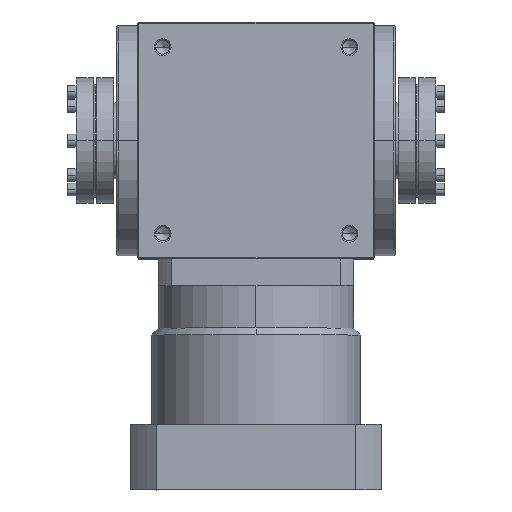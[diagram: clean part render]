
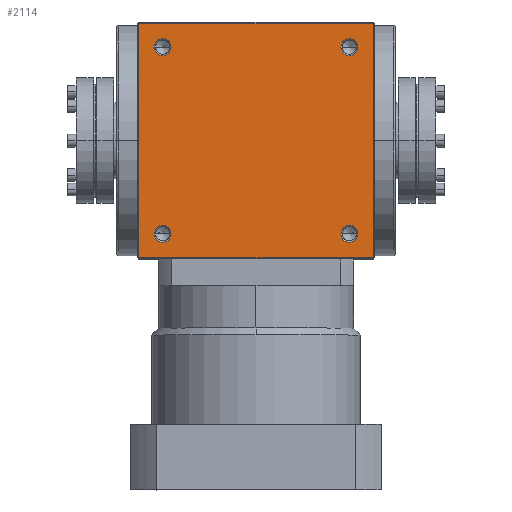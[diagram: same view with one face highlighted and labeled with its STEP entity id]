
A CAD part, top view. The second image highlights one B-rep face of the part: STEP entity #2114.
In plain terms, the highlighted planar face has unit normal (0, 0, 1).
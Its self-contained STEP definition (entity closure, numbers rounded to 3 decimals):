
#688 = EDGE_CURVE ( 'NONE', #14537, #14434, #18743, .T. ) ;
#827 = AXIS2_PLACEMENT_3D ( 'NONE', #9617, #9619, #9641 ) ;
#2114 = ADVANCED_FACE ( 'NONE', ( #10393, #3582, #12990, #18031, #8414 ), #13659, .F. ) ;
#2268 = EDGE_CURVE ( 'NONE', #13686, #20657, #4994, .T. ) ;
#2456 = EDGE_CURVE ( 'NONE', #13686, #5702, #21355, .T. ) ;
#2525 = CARTESIAN_POINT ( 'NONE',  ( 67., -67., 85. ) ) ;
#2556 = DIRECTION ( 'NONE',  ( 0., 0., 1. ) ) ;
#2576 = DIRECTION ( 'NONE',  ( 1., 0., 0. ) ) ;
#2596 = CARTESIAN_POINT ( 'NONE',  ( -67., 67., 85. ) ) ;
#2626 = DIRECTION ( 'NONE',  ( 0., 0., 1. ) ) ;
#2653 = DIRECTION ( 'NONE',  ( 1., 0., 0. ) ) ;
#3012 = VECTOR ( 'NONE', #16038, 1000. ) ;
#3143 = EDGE_CURVE ( 'NONE', #4067, #9983, #7436, .T. ) ;
#3552 = CIRCLE ( 'NONE', #18183, 6.1 ) ;
#3582 = FACE_BOUND ( 'NONE', #6469, .T. ) ;
#3766 = EDGE_CURVE ( 'NONE', #14434, #14537, #8337, .T. ) ;
#3806 = EDGE_CURVE ( 'NONE', #10989, #10783, #20556, .T. ) ;
#3842 = EDGE_CURVE ( 'NONE', #18341, #8516, #6422, .T. ) ;
#4067 = VERTEX_POINT ( 'NONE', #13092 ) ;
#4586 = CARTESIAN_POINT ( 'NONE',  ( -60.9, 67., 85. ) ) ;
#4670 = CARTESIAN_POINT ( 'NONE',  ( -84., 84., 85. ) ) ;
#4994 = LINE ( 'NONE', #16116, #3012 ) ;
#5702 = VERTEX_POINT ( 'NONE', #4670 ) ;
#5989 = VECTOR ( 'NONE', #18811, 1000. ) ;
#6257 = CARTESIAN_POINT ( 'NONE',  ( 0., 84., 85. ) ) ;
#6402 = AXIS2_PLACEMENT_3D ( 'NONE', #10113, #10132, #10137 ) ;
#6422 = CIRCLE ( 'NONE', #12633, 6.1 ) ;
#6469 = EDGE_LOOP ( 'NONE', ( #15688, #21954 ) ) ;
#6579 = DIRECTION ( 'NONE',  ( 1., 0., 0. ) ) ;
#6723 = CARTESIAN_POINT ( 'NONE',  ( -60.9, -67., 85. ) ) ;
#7436 = CIRCLE ( 'NONE', #12059, 6.1 ) ;
#7603 = ORIENTED_EDGE ( 'NONE', *, *, #17471, .F. ) ;
#7892 = CARTESIAN_POINT ( 'NONE',  ( -73.1, -67., 85. ) ) ;
#8337 = CIRCLE ( 'NONE', #827, 6.1 ) ;
#8414 = FACE_OUTER_BOUND ( 'NONE', #17276, .T. ) ;
#8430 = EDGE_CURVE ( 'NONE', #9983, #4067, #11705, .T. ) ;
#8516 = VERTEX_POINT ( 'NONE', #20742 ) ;
#8799 = VERTEX_POINT ( 'NONE', #9643 ) ;
#9033 = LINE ( 'NONE', #6257, #9286 ) ;
#9286 = VECTOR ( 'NONE', #6579, 1000. ) ;
#9475 = CARTESIAN_POINT ( 'NONE',  ( 60.9, -67., 85. ) ) ;
#9617 = CARTESIAN_POINT ( 'NONE',  ( -67., -67., 85. ) ) ;
#9619 = DIRECTION ( 'NONE',  ( 0., 0., 1. ) ) ;
#9641 = DIRECTION ( 'NONE',  ( 1., 0., 0. ) ) ;
#9643 = CARTESIAN_POINT ( 'NONE',  ( 84., 84., 85. ) ) ;
#9983 = VERTEX_POINT ( 'NONE', #9475 ) ;
#10040 = LINE ( 'NONE', #14611, #11583 ) ;
#10113 = CARTESIAN_POINT ( 'NONE',  ( 67., 67., 85. ) ) ;
#10132 = DIRECTION ( 'NONE',  ( 0., 0., 1. ) ) ;
#10137 = DIRECTION ( 'NONE',  ( 1., 0., 0. ) ) ;
#10158 = CARTESIAN_POINT ( 'NONE',  ( 84., -84., 85. ) ) ;
#10379 = ORIENTED_EDGE ( 'NONE', *, *, #3143, .F. ) ;
#10393 = FACE_BOUND ( 'NONE', #15461, .T. ) ;
#10554 = CARTESIAN_POINT ( 'NONE',  ( -67., 67., 85. ) ) ;
#10580 = DIRECTION ( 'NONE',  ( 0., 0., 1. ) ) ;
#10584 = DIRECTION ( 'NONE',  ( 1., 0., 0. ) ) ;
#10783 = VERTEX_POINT ( 'NONE', #18015 ) ;
#10989 = VERTEX_POINT ( 'NONE', #20698 ) ;
#11376 = ORIENTED_EDGE ( 'NONE', *, *, #3766, .F. ) ;
#11583 = VECTOR ( 'NONE', #14490, 1000. ) ;
#11705 = CIRCLE ( 'NONE', #14713, 6.1 ) ;
#11809 = DIRECTION ( 'NONE',  ( 1., 0., 0. ) ) ;
#11821 = ORIENTED_EDGE ( 'NONE', *, *, #8430, .F. ) ;
#11857 = EDGE_CURVE ( 'NONE', #8516, #18341, #13744, .T. ) ;
#11858 = ORIENTED_EDGE ( 'NONE', *, *, #2268, .T. ) ;
#12059 = AXIS2_PLACEMENT_3D ( 'NONE', #2525, #2556, #2576 ) ;
#12203 = CARTESIAN_POINT ( 'NONE',  ( -67., -67., 85. ) ) ;
#12633 = AXIS2_PLACEMENT_3D ( 'NONE', #10554, #10580, #10584 ) ;
#12990 = FACE_BOUND ( 'NONE', #21678, .T. ) ;
#13092 = CARTESIAN_POINT ( 'NONE',  ( 73.1, -67., 85. ) ) ;
#13610 = DIRECTION ( 'NONE',  ( 0., 0., -1. ) ) ;
#13659 = PLANE ( 'NONE',  #16562 ) ;
#13686 = VERTEX_POINT ( 'NONE', #16616 ) ;
#13710 = CARTESIAN_POINT ( 'NONE',  ( 84., -84., 85. ) ) ;
#13731 = DIRECTION ( 'NONE',  ( -1., 0., 0. ) ) ;
#13744 = CIRCLE ( 'NONE', #21086, 6.1 ) ;
#13808 = DIRECTION ( 'NONE',  ( 0., 0., 1. ) ) ;
#14434 = VERTEX_POINT ( 'NONE', #6723 ) ;
#14490 = DIRECTION ( 'NONE',  ( 0., -1., 0. ) ) ;
#14537 = VERTEX_POINT ( 'NONE', #7892 ) ;
#14611 = CARTESIAN_POINT ( 'NONE',  ( 84., 0., 85. ) ) ;
#14713 = AXIS2_PLACEMENT_3D ( 'NONE', #19827, #19838, #19861 ) ;
#15461 = EDGE_LOOP ( 'NONE', ( #15714, #17371 ) ) ;
#15491 = EDGE_CURVE ( 'NONE', #10783, #10989, #3552, .T. ) ;
#15688 = ORIENTED_EDGE ( 'NONE', *, *, #3806, .F. ) ;
#15714 = ORIENTED_EDGE ( 'NONE', *, *, #3842, .F. ) ;
#15803 = ORIENTED_EDGE ( 'NONE', *, *, #688, .F. ) ;
#15928 = AXIS2_PLACEMENT_3D ( 'NONE', #12203, #13808, #11809 ) ;
#16038 = DIRECTION ( 'NONE',  ( 1., 0., 0. ) ) ;
#16116 = CARTESIAN_POINT ( 'NONE',  ( 0., -84., 85. ) ) ;
#16562 = AXIS2_PLACEMENT_3D ( 'NONE', #13710, #13610, #13731 ) ;
#16616 = CARTESIAN_POINT ( 'NONE',  ( -84., -84., 85. ) ) ;
#17276 = EDGE_LOOP ( 'NONE', ( #11858, #7603, #18764, #20540 ) ) ;
#17371 = ORIENTED_EDGE ( 'NONE', *, *, #11857, .F. ) ;
#17380 = CARTESIAN_POINT ( 'NONE',  ( 67., 67., 85. ) ) ;
#17397 = DIRECTION ( 'NONE',  ( 0., 0., 1. ) ) ;
#17422 = DIRECTION ( 'NONE',  ( 1., 0., 0. ) ) ;
#17471 = EDGE_CURVE ( 'NONE', #8799, #20657, #10040, .T. ) ;
#18015 = CARTESIAN_POINT ( 'NONE',  ( 60.9, 67., 85. ) ) ;
#18031 = FACE_BOUND ( 'NONE', #18643, .T. ) ;
#18183 = AXIS2_PLACEMENT_3D ( 'NONE', #17380, #17397, #17422 ) ;
#18341 = VERTEX_POINT ( 'NONE', #4586 ) ;
#18643 = EDGE_LOOP ( 'NONE', ( #10379, #11821 ) ) ;
#18648 = CARTESIAN_POINT ( 'NONE',  ( -84., 0., 85. ) ) ;
#18743 = CIRCLE ( 'NONE', #15928, 6.1 ) ;
#18764 = ORIENTED_EDGE ( 'NONE', *, *, #22213, .F. ) ;
#18811 = DIRECTION ( 'NONE',  ( 0., 1., 0. ) ) ;
#19827 = CARTESIAN_POINT ( 'NONE',  ( 67., -67., 85. ) ) ;
#19838 = DIRECTION ( 'NONE',  ( 0., 0., 1. ) ) ;
#19861 = DIRECTION ( 'NONE',  ( 1., 0., 0. ) ) ;
#20540 = ORIENTED_EDGE ( 'NONE', *, *, #2456, .F. ) ;
#20556 = CIRCLE ( 'NONE', #6402, 6.1 ) ;
#20657 = VERTEX_POINT ( 'NONE', #10158 ) ;
#20698 = CARTESIAN_POINT ( 'NONE',  ( 73.1, 67., 85. ) ) ;
#20742 = CARTESIAN_POINT ( 'NONE',  ( -73.1, 67., 85. ) ) ;
#21086 = AXIS2_PLACEMENT_3D ( 'NONE', #2596, #2626, #2653 ) ;
#21355 = LINE ( 'NONE', #18648, #5989 ) ;
#21678 = EDGE_LOOP ( 'NONE', ( #11376, #15803 ) ) ;
#21954 = ORIENTED_EDGE ( 'NONE', *, *, #15491, .F. ) ;
#22213 = EDGE_CURVE ( 'NONE', #5702, #8799, #9033, .T. ) ;
